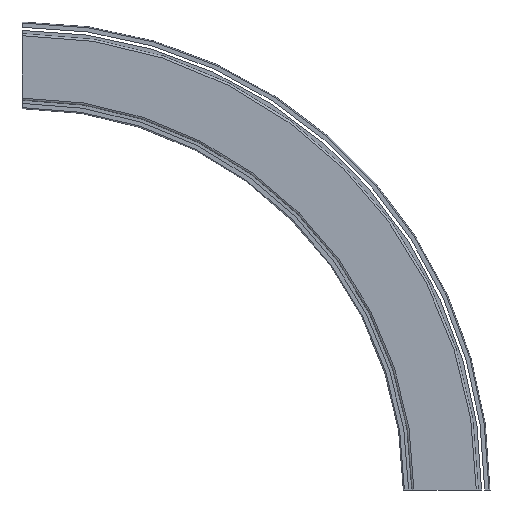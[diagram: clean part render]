
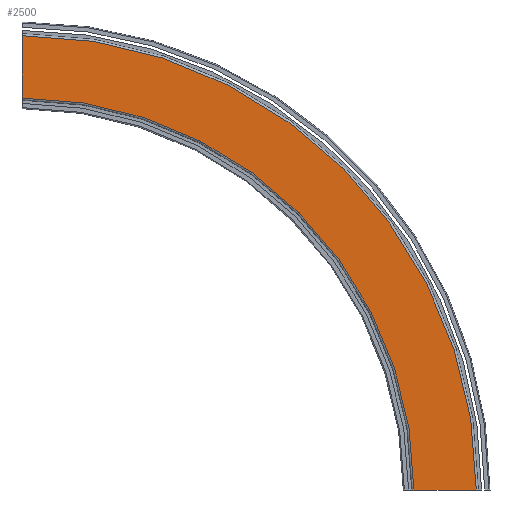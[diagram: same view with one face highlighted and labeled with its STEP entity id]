
A CAD part, left-side view. The second image highlights one B-rep face of the part: STEP entity #2500.
In plain terms, the highlighted planar face has unit normal (-1, 0, 0).
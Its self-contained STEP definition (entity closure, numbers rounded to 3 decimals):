
#2440=CARTESIAN_POINT('',(-43.0,61.,0.));
#2441=VERTEX_POINT('',#2440);
#2449=CARTESIAN_POINT('',(-43.0,431.5,370.5));
#2450=VERTEX_POINT('',#2449);
#2451=CARTESIAN_POINT('',(-43.0,431.5,0.0));
#2452=DIRECTION('',(1.0,0.0,0.0));
#2453=DIRECTION('',(0.0,0.0,1.0));
#2454=AXIS2_PLACEMENT_3D('',#2451,#2452,#2453);
#2455=CIRCLE('',#2454,370.5);
#2456=EDGE_CURVE('',#2450,#2441,#2455,.T.);
#2469=CARTESIAN_POINT('',(-43.0,431.5,400.0));
#2470=DIRECTION('',(-1.0,0.0,0.0));
#2471=DIRECTION('',(0.0,0.0,1.0));
#2472=AXIS2_PLACEMENT_3D('',#2469,#2470,#2471);
#2473=PLANE('',#2472);
#2474=CARTESIAN_POINT('',(-43.0,2.,0.));
#2475=VERTEX_POINT('',#2474);
#2476=CARTESIAN_POINT('',(-43.0,61.,0.0));
#2477=DIRECTION('',(0.0,-1.0,0.0));
#2478=VECTOR('',#2477,59.);
#2479=LINE('',#2476,#2478);
#2480=EDGE_CURVE('',#2441,#2475,#2479,.T.);
#2481=ORIENTED_EDGE('',*,*,#2480,.T.);
#2482=CARTESIAN_POINT('',(-43.0,431.5,429.5));
#2483=VERTEX_POINT('',#2482);
#2484=CARTESIAN_POINT('',(-43.0,431.5,0.0));
#2485=DIRECTION('',(1.0,0.0,0.0));
#2486=DIRECTION('',(0.0,0.0,1.0));
#2487=AXIS2_PLACEMENT_3D('',#2484,#2485,#2486);
#2488=CIRCLE('',#2487,429.5);
#2489=EDGE_CURVE('',#2483,#2475,#2488,.T.);
#2490=ORIENTED_EDGE('',*,*,#2489,.F.);
#2491=CARTESIAN_POINT('',(-43.0,431.5,370.5));
#2492=DIRECTION('',(0.0,0.0,1.0));
#2493=VECTOR('',#2492,59.0);
#2494=LINE('',#2491,#2493);
#2495=EDGE_CURVE('',#2450,#2483,#2494,.T.);
#2496=ORIENTED_EDGE('',*,*,#2495,.F.);
#2497=ORIENTED_EDGE('',*,*,#2456,.T.);
#2498=EDGE_LOOP('',(#2481,#2490,#2496,#2497));
#2499=FACE_OUTER_BOUND('',#2498,.T.);
#2500=ADVANCED_FACE('',(#2499),#2473,.T.);
